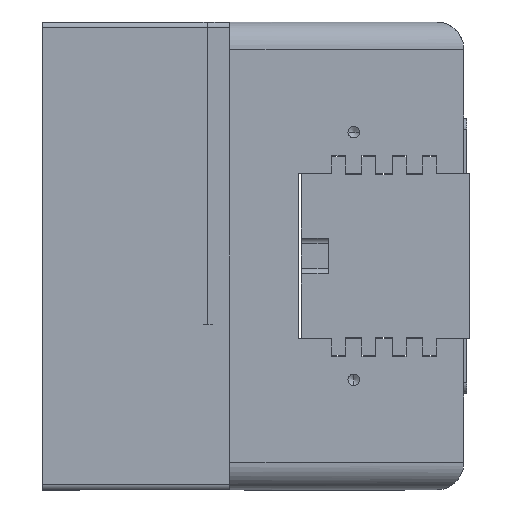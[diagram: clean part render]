
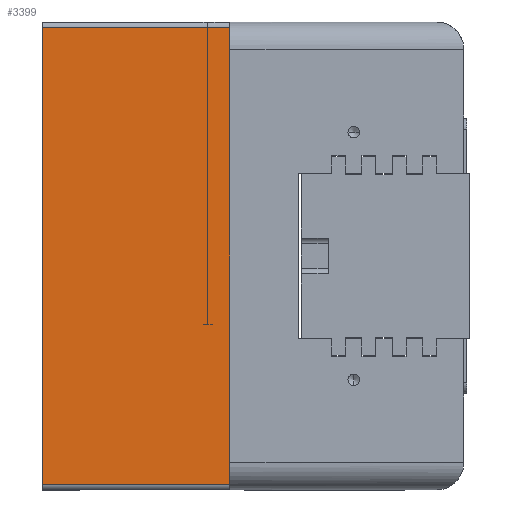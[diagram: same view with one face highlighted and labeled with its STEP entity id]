
A CAD part, left-side view. The second image highlights one B-rep face of the part: STEP entity #3399.
In plain terms, the highlighted planar face has unit normal (-1, 0, 0).
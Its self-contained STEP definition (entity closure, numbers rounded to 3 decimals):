
#418 = ORIENTED_EDGE ( 'NONE', *, *, #5569, .F. ) ;
#459 = DIRECTION ( 'NONE',  ( 0., 0., 1. ) ) ;
#860 = PLANE ( 'NONE',  #10450 ) ;
#958 = CARTESIAN_POINT ( 'NONE',  ( -142.5, 153., 83. ) ) ;
#1052 = LINE ( 'NONE', #7583, #7004 ) ;
#1653 = EDGE_CURVE ( 'NONE', #9489, #14473, #4330, .T. ) ;
#2167 = DIRECTION ( 'NONE',  ( 0., -1., 0. ) ) ;
#2954 = ORIENTED_EDGE ( 'NONE', *, *, #12653, .F. ) ;
#3198 = DIRECTION ( 'NONE',  ( 1., 0., 0. ) ) ;
#3399 = ADVANCED_FACE ( 'NONE', ( #4628 ), #860, .F. ) ;
#4330 = LINE ( 'NONE', #958, #7865 ) ;
#4628 = FACE_OUTER_BOUND ( 'NONE', #5960, .T. ) ;
#5015 = LINE ( 'NONE', #6635, #5938 ) ;
#5395 = LINE ( 'NONE', #13847, #13047 ) ;
#5461 = DIRECTION ( 'NONE',  ( 0., 0., -1. ) ) ;
#5569 = EDGE_CURVE ( 'NONE', #14473, #8062, #5015, .T. ) ;
#5618 = EDGE_CURVE ( 'NONE', #8062, #9923, #5395, .T. ) ;
#5938 = VECTOR ( 'NONE', #12485, 1000. ) ;
#5949 = CARTESIAN_POINT ( 'NONE',  ( -142.5, 153., -83. ) ) ;
#5960 = EDGE_LOOP ( 'NONE', ( #10483, #2954, #7872, #418 ) ) ;
#6635 = CARTESIAN_POINT ( 'NONE',  ( -142.5, 85., 0. ) ) ;
#6793 = CARTESIAN_POINT ( 'NONE',  ( -142.5, 153., -85. ) ) ;
#7004 = VECTOR ( 'NONE', #459, 1000. ) ;
#7404 = CARTESIAN_POINT ( 'NONE',  ( -142.5, 85., 83. ) ) ;
#7583 = CARTESIAN_POINT ( 'NONE',  ( -142.5, 153., 0. ) ) ;
#7865 = VECTOR ( 'NONE', #2167, 1000. ) ;
#7872 = ORIENTED_EDGE ( 'NONE', *, *, #5618, .F. ) ;
#8062 = VERTEX_POINT ( 'NONE', #8283 ) ;
#8283 = CARTESIAN_POINT ( 'NONE',  ( -142.5, 85., -83. ) ) ;
#9489 = VERTEX_POINT ( 'NONE', #14637 ) ;
#9923 = VERTEX_POINT ( 'NONE', #5949 ) ;
#10450 = AXIS2_PLACEMENT_3D ( 'NONE', #6793, #3198, #5461 ) ;
#10483 = ORIENTED_EDGE ( 'NONE', *, *, #1653, .F. ) ;
#12485 = DIRECTION ( 'NONE',  ( 0., 0., -1. ) ) ;
#12653 = EDGE_CURVE ( 'NONE', #9923, #9489, #1052, .T. ) ;
#13047 = VECTOR ( 'NONE', #15053, 1000. ) ;
#13847 = CARTESIAN_POINT ( 'NONE',  ( -142.5, 153., -83. ) ) ;
#14473 = VERTEX_POINT ( 'NONE', #7404 ) ;
#14637 = CARTESIAN_POINT ( 'NONE',  ( -142.5, 153., 83. ) ) ;
#15053 = DIRECTION ( 'NONE',  ( 0., 1., 0. ) ) ;
